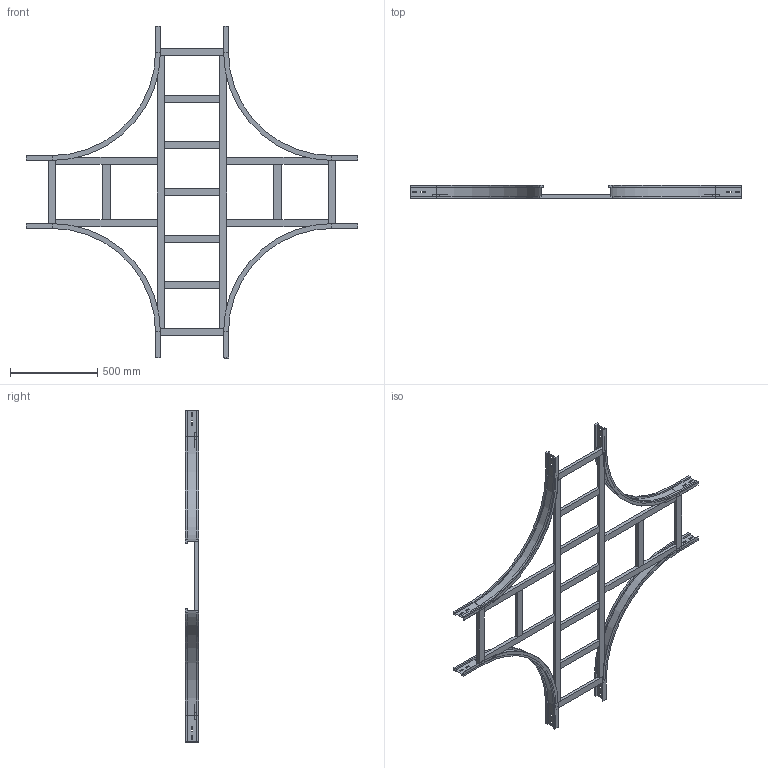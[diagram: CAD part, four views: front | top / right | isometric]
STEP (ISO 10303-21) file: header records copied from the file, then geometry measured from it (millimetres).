
FILE_DESCRIPTION (( 'STEP AP214' ), '1' );
FILE_NAME ('17S6C400.step', '2025-02-21T16:19:05', ( '' ), ( '' ), 'SwSTEP 2.0', 'SolidWorks 2023', '' );
FILE_SCHEMA (( 'AUTOMOTIVE_DESIGN' ));
Length unit declared in the file: millimetre
Products named in the file (7): LONGH.INTERNO 90°_H75_R600; TRAVERSINO_COPPIA_400; TRAVERSINO_400; 17S6C400; TRAVERSINO_INTERMEDIO_X_R600+400; TRAVERSINO_LONG._R600+400; TRAVERSINO_VERT_R600
Assembly tree (21 placements, depth 2):
  17S6C400
    LONGH.INTERNO 90°_H75_R600  x4
    TRAVERSINO_400  x4
    TRAVERSINO_LONG._R600+400  x2
    TRAVERSINO_INTERMEDIO_X_R600+400  x5
    TRAVERSINO_VERT_R600  x4
    TRAVERSINO_COPPIA_400  x2
Bounding box: 1900 x 75 x 1900 mm (x, y, z)
Volume: 9933563.5 mm3; surface area: 2374685.8 mm2
Topology: 21 solids, 21 shells, 318 faces, 732 edges, 456 vertices
Faces by surface type: plane 294, cylinder 24
Entity records: 2652 total; most frequent: CARTESIAN_POINT 420, DIRECTION 420, ORIENTED_EDGE 384, EDGE_CURVE 192, LINE 180, VECTOR 180, AXIS2_PLACEMENT_3D 120, VERTEX_POINT 120
